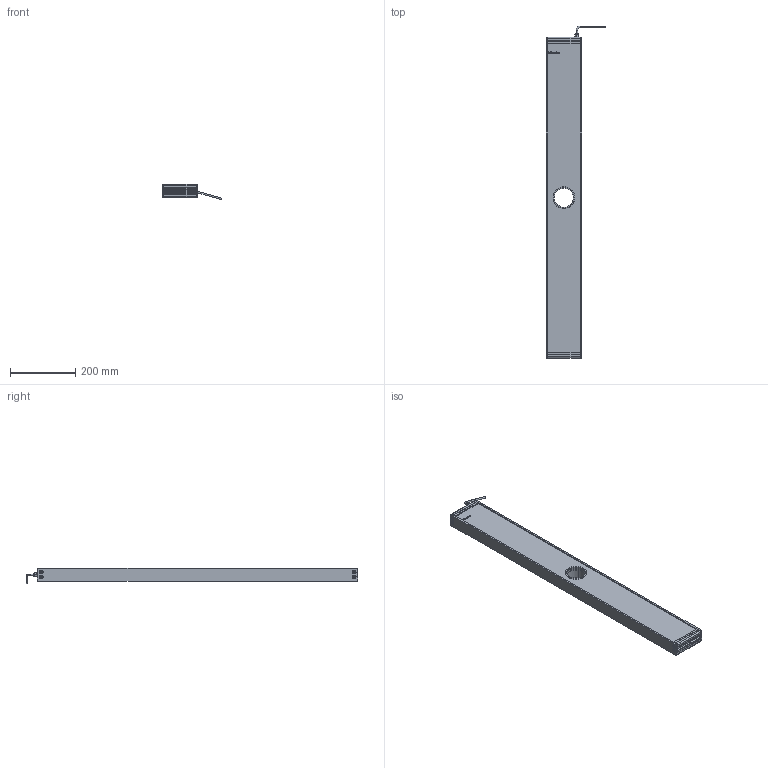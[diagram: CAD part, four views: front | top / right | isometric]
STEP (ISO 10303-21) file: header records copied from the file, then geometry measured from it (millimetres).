
FILE_DESCRIPTION (( 'STEP AP214' ), '1' );
FILE_NAME ('EFFI-FD-100T-950-M12 Ø58.5.STEP', '2021-07-02T12:06:09', ( '' ), ( '' ), 'SwSTEP 2.0', 'SolidWorks 2021', '' );
FILE_SCHEMA (( 'AUTOMOTIVE_DESIGN' ));
Length unit declared in the file: millimetre
Products named in the file (11): cordon_Avec cable; EFFI-FD-100T-950-M12 Ø58.5; 001037; 000590; bord fin modif_lg 436.5 mm; Pièce2^EFFI-FD-XXXT-YYY-M12 Ø58.5; profile modif_lg 99.5 mm; 001038; 003776; Assemblage Ø58.5
Assembly tree (20 placements, depth 3):
  EFFI-FD-100T-950-M12 Ø58.5
    profile modif_lg 99.5 mm
    bord fin modif_lg 436.5 mm  x2
    Pièce2^EFFI-FD-XXXT-YYY-M12 Ø58.5
    profile modif_lg 99.5 mm
    003776  x8
    cordon_Avec cable
    Assemblage Ø58.5
      001037
      001038
      000590  x3
Bounding box: 184.41 x 1021.15 x 47.08 mm (x, y, z)
Volume: 3715856 mm3; surface area: 509746.9 mm2
Topology: 18 solids, 24 shells, 997 faces, 2503 edges, 1569 vertices
Faces by surface type: plane 391, cylinder 231, bspline 180, cone 152, torus 35, sphere 8
Entity records: 25439 total; most frequent: CARTESIAN_POINT 8620, ORIENTED_EDGE 3290, DIRECTION 3029, EDGE_CURVE 1649, VERTEX_POINT 1066, AXIS2_PLACEMENT_3D 1021, VECTOR 987, LINE 987
